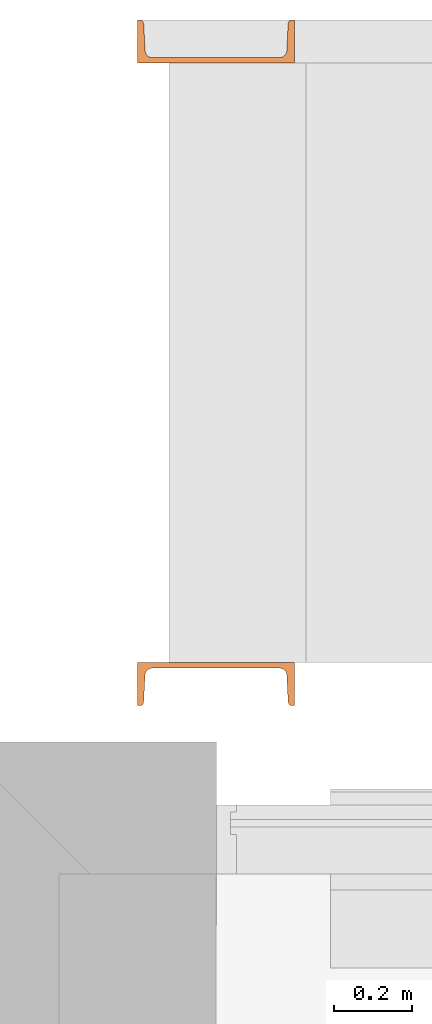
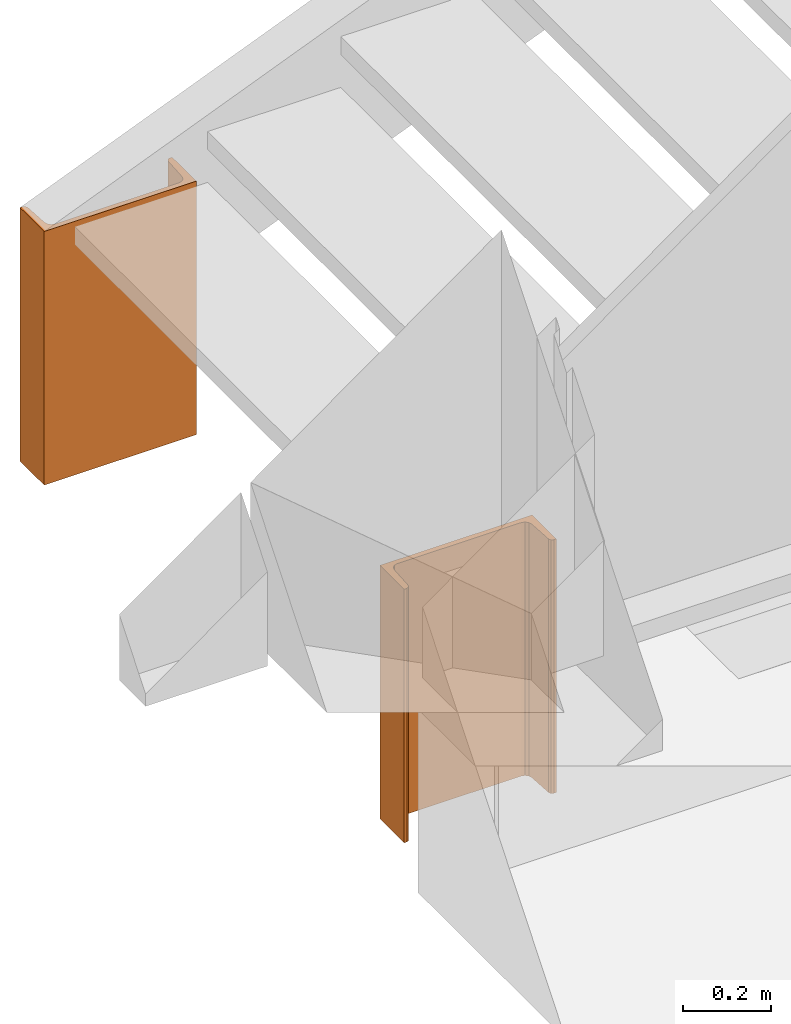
# One storey, part 89 of 89: 2 proxies.
"""IFC2X3 building model written with IfcOpenShell, lengths in millimetres."""

from ifc_helpers import new_model, entity, si_unit, converted_unit, derived_unit, money_unit, direction, frame, origin_with_axes, place, context, subcontext, project, spatial, faceted_brep, material, type_object, element, save


model = new_model("IFC2X3")

# Units and contexts
model_context = context("Model", 3, precision=0.01, world=origin_with_axes(), true_north=direction((0.0, 1.0)))
body_context = subcontext(model_context, "Body", "Model", "MODEL_VIEW")
ifc_project = project(units=[si_unit("LENGTHUNIT", "METRE", prefix="MILLI"), si_unit("AREAUNIT", "SQUARE_METRE"), si_unit("VOLUMEUNIT", "CUBIC_METRE"), converted_unit("PLANEANGLEUNIT", "DEGREE", entity("IfcPlaneAngleMeasure", 0.0174532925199), si_unit("PLANEANGLEUNIT", "RADIAN"), dimensions=[0, 0, 0, 0, 0, 0, 0]), si_unit("SOLIDANGLEUNIT", "STERADIAN"), money_unit("EUR"), converted_unit("TIMEUNIT", "Year", entity("IfcTimeMeasure", 31556926.0), si_unit("TIMEUNIT", "SECOND"), dimensions=[0, 0, 1, 0, 0, 0, 0]), si_unit("MASSUNIT", "GRAM", prefix="KILO"), si_unit("THERMODYNAMICTEMPERATUREUNIT", "DEGREE_CELSIUS"), si_unit("LUMINOUSINTENSITYUNIT", "LUMEN"), si_unit("ENERGYUNIT", "JOULE", prefix="MEGA"), derived_unit("THERMALCONDUCTANCEUNIT", [(si_unit("POWERUNIT", "WATT"), 1), (si_unit("LENGTHUNIT", "METRE"), -1), (si_unit("THERMODYNAMICTEMPERATUREUNIT", "KELVIN"), -1)]), derived_unit("SPECIFICHEATCAPACITYUNIT", [(si_unit("ENERGYUNIT", "JOULE"), 1), (si_unit("MASSUNIT", "GRAM", prefix="KILO"), -1), (si_unit("THERMODYNAMICTEMPERATUREUNIT", "KELVIN"), -1)]), derived_unit("MASSDENSITYUNIT", [(si_unit("MASSUNIT", "GRAM", prefix="KILO"), 1), (si_unit("VOLUMEUNIT", "CUBIC_METRE"), -1)])], contexts=[model_context])

# Site, building, storey
site_placement = place(None, origin_with_axes())
site = spatial("IfcSite", under=ifc_project, at=site_placement, Name="Puškini 31, Narva", CompositionType="ELEMENT")
building_placement = place(site_placement, origin_with_axes())
building = spatial("IfcBuilding", under=site, at=building_placement, Name="Narva Riigigümnaasium", CompositionType="ELEMENT")
storey_placement = place(building_placement, frame((0.0, 0.0, -3300.0), z_axis=(0.0, 0.0, 1.0), x_axis=(1.0, 0.0, 0.0)))
storey = spatial("IfcBuildingStorey", under=building, at=storey_placement, Name="1.korrus -3.3", CompositionType="ELEMENT", Elevation=-3300.0)

# Proxies
ifc_material = material(Name="Teras, S355")
building_element_proxy_type = type_object("IfcBuildingElementProxyType", Name="Teras, S355", PredefinedType="NOTDEFINED")
proxy_1_placement = place(storey_placement, frame((21234.5272945, 511070.0, -34109.0773599), z_axis=(-0.927211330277, 0.0, 0.374538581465), x_axis=(-0.374538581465, 0.0, -0.927211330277)))
element("IfcBuildingElementProxy", 1, at=proxy_1_placement, inside=storey, type_object=building_element_proxy_type, material=ifc_material, Name="U-Channels:UPN400", context=body_context, shape_type="Brep", body=[
    faceted_brep([(-37177.1484035, 256314.0, -2808.44690798), (-37055.1780312, 256314.0, -2506.49587618), (-37051.9048739, 256316.263836, -2498.39281626), (-37049.4550378, 256322.485904, -2492.32797833), (-37048.4447481, 256331.101123, -2489.82689545), (-37047.1273402, 256401.449439, -2486.56550768), (-37046.083971, 256407.520926, -2483.98253293), (-37043.7606986, 256410.0, -2478.23101732), (-37041.2555011, 256410.0, -2472.02912603), (-37041.2555011, 256300.0, -2472.02912603), (-37191.0709336, 256300.0, -2842.91365814), (-37191.0709336, 256410.0, -2842.91365814), (-37188.5657361, 256410.0, -2836.71176684), (-37186.2424637, 256407.520926, -2830.96025123), (-37185.1990945, 256401.449439, -2828.37727648), (-37183.8816866, 256331.101123, -2825.11588871), (-37182.8713969, 256322.485904, -2822.61480583), (-37180.4215608, 256316.263836, -2816.5499679), (-37830.8323913, 256314.0, -2544.39720805), (-37708.8620191, 256314.0, -2242.44617624), (-37705.5888617, 256316.263836, -2234.34311633), (-37703.1390256, 256322.485904, -2228.27827839), (-37702.1287359, 256331.101123, -2225.77719552), (-37700.811328, 256401.449439, -2222.51580775), (-37699.7679589, 256407.520926, -2219.932833), (-37697.4446865, 256410.0, -2214.18131739), (-37694.9394889, 256410.0, -2207.97942609), (-37694.9394889, 256300.0, -2207.97942609), (-37844.7549215, 256300.0, -2578.8639582), (-37844.7549215, 256410.0, -2578.8639582), (-37842.2497239, 256410.0, -2572.66206691), (-37839.9264515, 256407.520926, -2566.91055129), (-37838.8830824, 256401.449439, -2564.32757654), (-37837.5656744, 256331.101123, -2561.06618878), (-37836.5553848, 256322.485904, -2558.5651059), (-37834.1055487, 256316.263836, -2552.50026797)], [[[0, 1, 2, 3, 4, 5, 6, 7, 8, 9, 10, 11, 12, 13, 14, 15, 16, 17]], [[0, 18, 19, 1]], [[1, 19, 20, 2]], [[2, 20, 21, 3]], [[3, 21, 22, 4]], [[4, 22, 23, 5]], [[5, 23, 24, 6]], [[6, 24, 25, 7]], [[7, 25, 26, 8]], [[8, 26, 27, 9]], [[9, 27, 28, 10]], [[10, 28, 29, 11]], [[11, 29, 30, 12]], [[12, 30, 31, 13]], [[13, 31, 32, 14]], [[14, 32, 33, 15]], [[15, 33, 34, 16]], [[16, 34, 35, 17]], [[17, 35, 18, 0]], [[18, 35, 34, 33, 32, 31, 30, 29, 28, 27, 26, 25, 24, 23, 22, 21, 20, 19]]]),
])
proxy_2_placement = place(storey_placement, frame((21234.5272945, 0.0, -34109.0773599), z_axis=(-0.927211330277, 0.0, 0.374538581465), x_axis=(0.374538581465, 0.0, 0.927211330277)))
element("IfcBuildingElementProxy", 2, at=proxy_2_placement, inside=storey, type_object=building_element_proxy_type, material=ifc_material, Name="U-Channels:UPN400", context=body_context, shape_type="Brep", body=[
    faceted_brep([(37177.1484035, 256314.0, -2808.44690798), (37180.4215608, 256316.263836, -2816.5499679), (37182.8713969, 256322.485904, -2822.61480583), (37183.8816866, 256331.101123, -2825.11588871), (37185.1990945, 256401.449439, -2828.37727648), (37186.2424637, 256407.520926, -2830.96025123), (37188.5657361, 256410.0, -2836.71176684), (37191.0709336, 256410.0, -2842.91365814), (37191.0709336, 256300.0, -2842.91365814), (37041.2555011, 256300.0, -2472.02912603), (37041.2555011, 256410.0, -2472.02912603), (37043.7606986, 256410.0, -2478.23101732), (37046.083971, 256407.520926, -2483.98253293), (37047.1273402, 256401.449439, -2486.56550768), (37048.4447481, 256331.101123, -2489.82689545), (37049.4550378, 256322.485904, -2492.32797833), (37051.9048739, 256316.263836, -2498.39281626), (37055.1780312, 256314.0, -2506.49587618), (37830.8323913, 256314.0, -2544.39720805), (37834.1055487, 256316.263836, -2552.50026797), (37836.5553848, 256322.485904, -2558.5651059), (37837.5656744, 256331.101123, -2561.06618878), (37838.8830824, 256401.449439, -2564.32757654), (37839.9264515, 256407.520926, -2566.91055129), (37842.2497239, 256410.0, -2572.66206691), (37844.7549215, 256410.0, -2578.8639582), (37844.7549215, 256300.0, -2578.8639582), (37694.9394889, 256300.0, -2207.97942609), (37694.9394889, 256410.0, -2207.97942609), (37697.4446865, 256410.0, -2214.18131739), (37699.7679589, 256407.520926, -2219.932833), (37700.811328, 256401.449439, -2222.51580775), (37702.1287359, 256331.101123, -2225.77719552), (37703.1390256, 256322.485904, -2228.27827839), (37705.5888617, 256316.263836, -2234.34311633), (37708.8620191, 256314.0, -2242.44617624)], [[[0, 1, 2, 3, 4, 5, 6, 7, 8, 9, 10, 11, 12, 13, 14, 15, 16, 17]], [[1, 0, 18, 19]], [[2, 1, 19, 20]], [[3, 2, 20, 21]], [[4, 3, 21, 22]], [[5, 4, 22, 23]], [[6, 5, 23, 24]], [[7, 6, 24, 25]], [[8, 7, 25, 26]], [[9, 8, 26, 27]], [[10, 9, 27, 28]], [[11, 10, 28, 29]], [[12, 11, 29, 30]], [[13, 12, 30, 31]], [[14, 13, 31, 32]], [[15, 14, 32, 33]], [[16, 15, 33, 34]], [[17, 16, 34, 35]], [[0, 17, 35, 18]], [[18, 35, 34, 33, 32, 31, 30, 29, 28, 27, 26, 25, 24, 23, 22, 21, 20, 19]]]),
])

save(model, "model.ifc")
